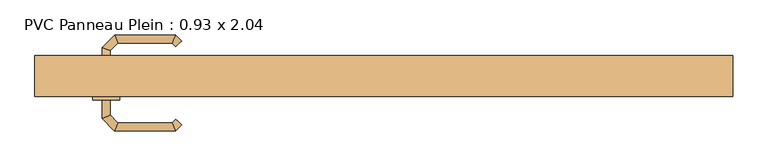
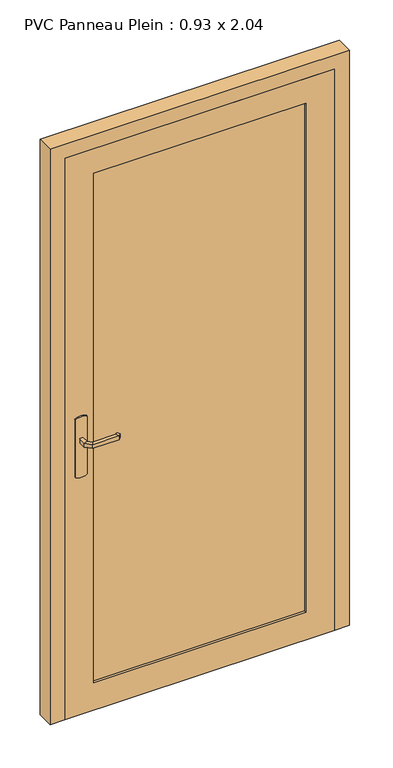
"""IFC4 building model written with IfcOpenShell, lengths in millimetres: door geometry, PVC Panneau Plein : 0.93 x 2.04."""

import ifcopenshell
import ifcopenshell.guid

model = None  # the IFC model being written
_history = None  # IfcOwnerHistory: only IFC2X3 demands one
_inside = {}  # id of a spatial element -> (the spatial element, [elements in it])
_under = {}  # id of a project, library or spatial element -> (it, [spatial elements below it])
_declared = {}  # id of a project -> (the project, [libraries it declares])
_typed = {}  # id of a type object -> (the type object, [elements of that type])
_made_of = {}  # id of a material, layer set ... -> (it, [elements and type objects made of it])


def new_model(schema):
    """Start an empty IFC model of exactly this schema.

    Asked for "IFC4X3", IfcOpenShell would pick the latest addendum, in which some entities
    have other attributes; the version numbers below select the first issue.
    IFC2X3 requires an IfcOwnerHistory on every rooted entity: one is made here for all.
    """
    global model, _history
    if schema == "IFC4X3":
        model = ifcopenshell.file(schema_version=(4, 3, 0, 0))
    else:
        model = ifcopenshell.file(schema=schema)
    _inside.clear()
    _under.clear()
    _declared.clear()
    _typed.clear()
    _made_of.clear()
    _history = None
    if model.schema == "IFC2X3":
        org = make("IfcOrganization", Name="unknown")
        user = make(
            "IfcPersonAndOrganization",
            ThePerson=make("IfcPerson", FamilyName="unknown"),
            TheOrganization=org,
        )
        app = make(
            "IfcApplication",
            ApplicationDeveloper=org,
            Version="unknown",
            ApplicationFullName="unknown",
            ApplicationIdentifier="unknown",
        )
        _history = make(
            "IfcOwnerHistory",
            OwningUser=user,
            OwningApplication=app,
            ChangeAction="ADDED",
            CreationDate=0,
        )
    return model


def make(cls, **values):
    """One entity of the class cls with the attributes given. An attribute that is None is left unset."""
    return model.create_entity(
        cls, **{name: value for name, value in values.items() if value is not None}
    )


def rooted(cls, **values):
    """An entity with a GlobalId (a new one), such as an element, a storey or a relation."""
    return make(cls, GlobalId=ifcopenshell.guid.new(), OwnerHistory=_history, **values)


def si_unit(unit_type, name, prefix=None):
    """IfcSIUnit, for example si_unit("LENGTHUNIT", "METRE", prefix="MILLI")."""
    return make("IfcSIUnit", UnitType=unit_type, Prefix=prefix, Name=name)


def assignment(units):
    """IfcUnitAssignment: the units of a project."""
    return None if units is None else make("IfcUnitAssignment", Units=units)


def point(xyz):
    """IfcCartesianPoint."""
    return None if xyz is None else make("IfcCartesianPoint", Coordinates=xyz)


def direction(xyz):
    """IfcDirection."""
    return None if xyz is None else make("IfcDirection", DirectionRatios=xyz)


def frame(location, z_axis=None, x_axis=None):
    """IfcAxis2Placement3D, a coordinate frame: its origin and axes. An axis left out is left unset."""
    return make(
        "IfcAxis2Placement3D",
        Location=point(location),
        Axis=direction(z_axis),
        RefDirection=direction(x_axis),
    )


def frame_2d(location, x_axis=None):
    """IfcAxis2Placement2D, a coordinate frame in the plane: its origin and x axis."""
    return make(
        "IfcAxis2Placement2D", Location=point(location), RefDirection=direction(x_axis)
    )


def origin():
    """The frame at (0, 0, 0) with its axes left unset."""
    return frame((0.0, 0.0, 0.0))


def place(relative_to, where):
    """IfcLocalPlacement: puts the frame where relative to a parent placement (None: the world)."""
    return make(
        "IfcLocalPlacement", PlacementRelTo=relative_to, RelativePlacement=where
    )


def context(
    kind, dimensions, precision=None, world=None, true_north=None, identifier=None
):
    """IfcGeometricRepresentationContext, for example the 3D "Model" context."""
    return make(
        "IfcGeometricRepresentationContext",
        ContextIdentifier=identifier,
        ContextType=kind,
        CoordinateSpaceDimension=dimensions,
        Precision=precision,
        WorldCoordinateSystem=world,
        TrueNorth=true_north,
    )


def project(units=None, contexts=None):
    """IfcProject with its units and contexts."""
    return rooted(
        "IfcProject",
        Name="project",
        RepresentationContexts=contexts,
        UnitsInContext=assignment(units),
    )


def spatial(cls, under=None, at=None, **own):
    """A site, building, storey or space (cls), placed at a placement, below another one or the project."""
    s = rooted(cls, ObjectPlacement=at, **own)
    if under is not None:
        _under.setdefault(under.id(), (under, []))[1].append(s)
    return s


def polyline(points):
    """IfcPolyline through the points."""
    return make("IfcPolyline", Points=[point(p) for p in points])


def circle_curve(where, radius):
    """IfcCircle in the frame where."""
    return make("IfcCircle", Position=where, Radius=radius)


def ellipse_curve(where, semi_axis1, semi_axis2):
    """IfcEllipse in the frame where."""
    return make(
        "IfcEllipse", Position=where, SemiAxis1=semi_axis1, SemiAxis2=semi_axis2
    )


def trimmed(basis, trim1, trim2, sense, master):
    """IfcTrimmedCurve: the piece of a basis curve between two trims."""
    return make(
        "IfcTrimmedCurve",
        BasisCurve=basis,
        Trim1=trim1,
        Trim2=trim2,
        SenseAgreement=sense,
        MasterRepresentation=master,
    )


def segment(curve, same_sense, transition):
    """IfcCompositeCurveSegment."""
    return make(
        "IfcCompositeCurveSegment",
        Transition=transition,
        SameSense=same_sense,
        ParentCurve=curve,
    )


def composite_curve(segments, self_intersect=None):
    """IfcCompositeCurve: segments joined end to end."""
    return make("IfcCompositeCurve", Segments=segments, SelfIntersect=self_intersect)


def outline(outer, holes=None, kind="AREA"):
    """IfcArbitraryClosedProfileDef: a profile drawn as a closed curve; with holes, ...WithVoids."""
    if holes is None:
        return make("IfcArbitraryClosedProfileDef", ProfileType=kind, OuterCurve=outer)
    return make(
        "IfcArbitraryProfileDefWithVoids",
        ProfileType=kind,
        OuterCurve=outer,
        InnerCurves=holes,
    )


def extrude(swept, where, along, depth):
    """IfcExtrudedAreaSolid: the profile swept, set in the frame where, extruded along a direction by depth."""
    return make(
        "IfcExtrudedAreaSolid",
        SweptArea=swept,
        Position=where,
        ExtrudedDirection=direction(along),
        Depth=depth,
    )


def faces_of(points, faces, orient=None, outer=None):
    """IfcFace entities. A face is a list of loops; a loop is a list of indices into points, from 0.

    orient and outer hold one flag for each loop. By default every Orientation is true, the
    first loop of a face is its IfcFaceOuterBound and the others are IfcFaceBound.
    """
    made = []
    for i, loops in enumerate(faces):
        bounds = []
        for j, loop in enumerate(loops):
            is_outer = j == 0 if outer is None else outer[i][j]
            bounds.append(
                make(
                    "IfcFaceOuterBound" if is_outer else "IfcFaceBound",
                    Bound=make("IfcPolyLoop", Polygon=[points[k] for k in loop]),
                    Orientation=True if orient is None else orient[i][j],
                )
            )
        made.append(make("IfcFace", Bounds=bounds))
    return made


def faceted_brep(points, faces, orient=None, outer=None, voids=None):
    """IfcFacetedBrep: a solid bounded by flat faces; with voids (closed shells), ...WithVoids."""
    shared = [point(p) for p in points]
    hull = make("IfcClosedShell", CfsFaces=faces_of(shared, faces, orient, outer))
    if voids is None:
        return make("IfcFacetedBrep", Outer=hull)
    return make(
        "IfcFacetedBrepWithVoids",
        Outer=hull,
        Voids=[
            make(cls, CfsFaces=faces_of(shared, fs, o, b)) for cls, fs, o, b in voids
        ],
    )


def shape(context_of_items, identifier, shape_type, items):
    """IfcShapeRepresentation: the items that make up one representation, for example the "Body"."""
    return make(
        "IfcShapeRepresentation",
        ContextOfItems=context_of_items,
        RepresentationIdentifier=identifier,
        RepresentationType=shape_type,
        Items=items,
    )


def source(mapping_origin, context_of_items, identifier, shape_type, items):
    """IfcRepresentationMap: a shape defined once, which mapped items show again and again."""
    return make(
        "IfcRepresentationMap",
        MappingOrigin=mapping_origin,
        MappedRepresentation=shape(context_of_items, identifier, shape_type, items),
    )


def transform(
    local_origin,
    x_axis=None,
    y_axis=None,
    z_axis=None,
    scale=None,
    scale2=None,
    scale3=None,
    uniform=True,
):
    """IfcCartesianTransformationOperator3D, or its non-uniform kind. x_axis, y_axis, z_axis: its Axis1, 2, 3."""
    if uniform:
        return make(
            "IfcCartesianTransformationOperator3D",
            Axis1=direction(x_axis),
            Axis2=direction(y_axis),
            LocalOrigin=point(local_origin),
            Scale=scale,
            Axis3=direction(z_axis),
        )
    return make(
        "IfcCartesianTransformationOperator3DnonUniform",
        Axis1=direction(x_axis),
        Axis2=direction(y_axis),
        LocalOrigin=point(local_origin),
        Scale=scale,
        Axis3=direction(z_axis),
        Scale2=scale2,
        Scale3=scale3,
    )


def mapped(mapping_source, mapping_target):
    """IfcMappedItem: shows the shape of a source again, moved by a transform."""
    return make(
        "IfcMappedItem", MappingSource=mapping_source, MappingTarget=mapping_target
    )


def made_of(thing, what):
    """Note that an element or type object is made of a material, layer set ...; save() writes the relation."""
    if what is not None:
        _made_of.setdefault(what.id(), (what, []))[1].append(thing)
    return thing


def element(
    cls,
    number,
    at=None,
    inside=None,
    cuts=None,
    type_object=None,
    material=None,
    context=None,
    identifier="Body",
    shape_type=None,
    held_by="IfcProductDefinitionShape",
    body=None,
    shapes=None,
    **own,
):
    """One element of the class cls, such as IfcWall. Its Tag is "e" and its number.

    at: its placement. inside: the storey or other place that contains it. cuts: it is an
    opening in that element (IfcRelVoidsElement). A single representation is given by context,
    identifier, shape_type and body (its items); several are given by shapes. held_by: the class
    of the entity that holds the representations. save() writes the other relations.
    """
    e = rooted(cls, Tag="e%d" % number, ObjectPlacement=at, **own)
    if body is not None:
        shapes = [shape(context, identifier, shape_type, body)]
    if shapes is not None:
        e.Representation = make(held_by, Representations=shapes)
    if inside is not None:
        _inside.setdefault(inside.id(), (inside, []))[1].append(e)
    if cuts is not None:
        rooted(
            "IfcRelVoidsElement", RelatingBuildingElement=cuts, RelatedOpeningElement=e
        )
    if type_object is not None:
        _typed.setdefault(type_object.id(), (type_object, []))[1].append(e)
    return made_of(e, material)


def aggregate(whole, parts):
    """IfcRelAggregates: a whole, such as a stair, and the parts it consists of."""
    return rooted("IfcRelAggregates", RelatingObject=whole, RelatedObjects=parts)


def save(model, path):
    """Write the relations noted so far, then the file.

    IfcRelAggregates (storeys below a building ...), IfcRelContainedInSpatialStructure (elements
    in a storey), IfcRelDefinesByType, IfcRelAssociatesMaterial and IfcRelDeclares: one each for
    every whole, place, type object, material and project.
    """
    for whole, parts in _under.values():
        aggregate(whole, parts)
    for where, things in _inside.values():
        rooted(
            "IfcRelContainedInSpatialStructure",
            RelatedElements=things,
            RelatingStructure=where,
        )
    for kind, things in _typed.values():
        rooted("IfcRelDefinesByType", RelatedObjects=things, RelatingType=kind)
    for what, things in _made_of.values():
        rooted("IfcRelAssociatesMaterial", RelatedObjects=things, RelatingMaterial=what)
    for by, libraries in _declared.values():
        rooted("IfcRelDeclares", RelatingContext=by, RelatedDefinitions=libraries)
    model.write(path)


def plane_surface(at):
    """IfcPlane: the flat surface through the origin of the frame at, square to its z axis."""
    return make("IfcPlane", Position=at)


def cylinder_surface(at, radius):
    """IfcCylindricalSurface: all points at the distance radius from the z axis of the frame at."""
    return make("IfcCylindricalSurface", Position=at, Radius=radius)


def advanced_brep(points, edges, surfaces, faces):
    """IfcAdvancedBrep: a solid bounded by faces that lie on surfaces and meet in shared edges.

    An edge is (start, end): straight between two places in points (the first is 0);
    or (start, end, curve); or (start, end, curve, False) where it runs against its curve.
    A face is (place in surfaces, loops), or (place, loops, False) where it looks against
    its surface's normal. A loop lists edges by number (the first is 1), with a minus sign
    where the edge is run from its end to its start. The first loop is the outer one.
    """
    corners = [point(p) for p in points]
    vertices = [make("IfcVertexPoint", VertexGeometry=c) for c in corners]
    made = []
    for start, end, *more in edges:
        made.append(
            make(
                "IfcEdgeCurve",
                EdgeStart=vertices[start],
                EdgeEnd=vertices[end],
                EdgeGeometry=more[0] if more else make("IfcPolyline", Points=[corners[start], corners[end]]),
                SameSense=more[1] if len(more) > 1 else True,
            )
        )
    hull = []
    for where, loops, *sense in faces:
        bounds = []
        for j, loop in enumerate(loops):
            ring = [make("IfcOrientedEdge", EdgeElement=made[abs(k) - 1], Orientation=k > 0) for k in loop]
            bounds.append(
                make(
                    "IfcFaceOuterBound" if j == 0 else "IfcFaceBound",
                    Bound=make("IfcEdgeLoop", EdgeList=ring),
                    Orientation=True,
                )
            )
        hull.append(make("IfcAdvancedFace", Bounds=bounds, FaceSurface=surfaces[where], SameSense=sense[0] if sense else True))
    return make("IfcAdvancedBrep", Outer=make("IfcClosedShell", CfsFaces=hull))


def pvc_panneau_plein_0_93_x_2_04_bf67a00e(model_context):
    return source(origin(), model_context, "Body", "SolidModel", [
        advanced_brep(
        [(-404.0, -118.7935702, 993.0), (-404.0, -118.7935702, 1007.0), (-416.0, -118.7935702, 1007.0), (-416.0, -118.7935702, 993.0), (-404.0, -96.3083657, 993.0), (-404.0, -96.3083657, 1007.0), (-416.0, -91.337803, 1007.0), (-416.0, -91.337803, 993.0), (-392.5147186, -84.8230843, 993.0), (-392.5147186, -84.8230843, 1007.0), (-397.4852814, -72.8230843, 1007.0), (-397.4852814, -72.8230843, 993.0), (-312.4394977, -84.8230843, 993.0), (-312.4394977, -84.8230843, 1007.0), (-307.468935, -72.8230843, 1007.0), (-307.468935, -72.8230843, 993.0), (-307.1257892, -90.1367928, 993.0), (-298.6405078, -81.6515115, 993.0), (-298.6405078, -81.6515115, 1007.0), (-307.1257892, -90.1367928, 1007.0)],
        [
            (0, 1),
            (1, 2, circle_curve(frame((-410.0, -118.7935702, 986.9542278), z_axis=(0.0, -1.0, 0.0), x_axis=(-1.0, 0.0, 0.0)), 20.9244589)),
            (2, 3),
            (3, 0, circle_curve(frame((-410.0, -118.7935702, 1013.0457722), z_axis=(0.0, -1.0, 0.0), x_axis=(-1.0, 0.0, 0.0)), 20.9244589)),
            (0, 4),
            (4, 5),
            (5, 1),
            (5, 6, ellipse_curve(frame((-410.0, -93.8230843, 986.9542278), z_axis=(-0.38268343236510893, -0.9238795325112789, 0.0), x_axis=(0.9238795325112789, -0.3826834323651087, 0.0)), 22.6484711, 20.9244589)),
            (6, 2),
            (6, 7),
            (7, 3),
            (7, 4, ellipse_curve(frame((-410.0, -93.8230843, 1013.0457722), z_axis=(-0.38268343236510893, -0.9238795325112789, 0.0), x_axis=(0.9238795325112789, -0.3826834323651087, 0.0)), 22.6484711, 20.9244589)),
            (4, 8),
            (8, 9),
            (9, 5),
            (9, 10, ellipse_curve(frame((-395.0, -78.8230843, 986.9542278), z_axis=(-0.9238795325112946, -0.38268343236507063, 0.0), x_axis=(0.3826834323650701, -0.9238795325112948, 0.0)), 22.6484711, 20.9244589)),
            (10, 6),
            (10, 11),
            (11, 7),
            (11, 8, ellipse_curve(frame((-395.0, -78.8230843, 1013.0457722), z_axis=(-0.9238795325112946, -0.38268343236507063, 0.0), x_axis=(0.3826834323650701, -0.9238795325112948, 0.0)), 22.6484711, 20.9244589)),
            (8, 12),
            (12, 13),
            (13, 9),
            (13, 14, ellipse_curve(frame((-309.9542163, -78.8230843, 986.9542278), z_axis=(-0.9238795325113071, 0.38268343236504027, 0.0), x_axis=(-0.38268343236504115, -0.9238795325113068, 0.0)), 22.6484711, 20.9244589)),
            (14, 10),
            (14, 15),
            (15, 11),
            (15, 12, ellipse_curve(frame((-309.9542163, -78.8230843, 1013.0457722), z_axis=(-0.9238795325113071, 0.38268343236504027, 0.0), x_axis=(-0.38268343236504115, -0.9238795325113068, 0.0)), 22.6484711, 20.9244589)),
            (16, 17, circle_curve(frame((-302.8831485, -85.8941521, 1013.0457722), z_axis=(0.7071067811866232, -0.7071067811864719, 0.0), x_axis=(0.7071067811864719, 0.7071067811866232, 0.0)), 20.9244589)),
            (17, 18),
            (18, 19, circle_curve(frame((-302.8831485, -85.8941521, 986.9542278), z_axis=(0.7071067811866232, -0.7071067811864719, 0.0), x_axis=(0.7071067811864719, 0.7071067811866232, 0.0)), 20.9244589)),
            (19, 16),
            (12, 16),
            (19, 13),
            (18, 14),
            (17, 15),
        ],
        [
            plane_surface(frame((-419.2195445, -118.7935702, 1000.0), z_axis=(0.0, -1.0, 0.0), x_axis=(0.0, 0.0, 1.0))),
            plane_surface(frame((-404.0, -118.7935702, 993.0), z_axis=(1.0, 0.0, 0.0), x_axis=(0.0, 1.0, 0.0))),
            cylinder_surface(frame((-410.0, -118.7935702, 986.9542278), z_axis=(0.0, -1.0, 0.0), x_axis=(-1.0, 0.0, 0.0)), 20.9244589),
            plane_surface(frame((-416.0, -118.7935702, 1007.0), z_axis=(-1.0, 0.0, 0.0), x_axis=(0.0, 1.0, 0.0))),
            cylinder_surface(frame((-410.0, -118.7935702, 1013.0457722), z_axis=(0.0, -1.0, 0.0), x_axis=(-1.0, 0.0, 0.0)), 20.9244589),
            plane_surface(frame((-404.0, -96.3083657, 993.0), z_axis=(0.707106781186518, -0.707106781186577, 0.0), x_axis=(0.707106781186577, 0.707106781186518, 0.0))),
            cylinder_surface(frame((-410.0, -93.8230843, 986.9542278), z_axis=(-0.7071067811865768, -0.7071067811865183, 0.0), x_axis=(-0.7071067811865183, 0.7071067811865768, 0.0)), 20.9244589),
            plane_surface(frame((-416.0, -91.337803, 1007.0), z_axis=(-0.7071067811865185, 0.7071067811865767, 0.0), x_axis=(0.7071067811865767, 0.7071067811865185, 0.0))),
            cylinder_surface(frame((-410.0, -93.8230843, 1013.0457722), z_axis=(-0.7071067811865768, -0.7071067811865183, 0.0), x_axis=(-0.7071067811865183, 0.7071067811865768, 0.0)), 20.9244589),
            plane_surface(frame((-392.5147186, -84.8230843, 993.0), z_axis=(0.0, -1.0, 0.0), x_axis=(1.0, 0.0, 0.0))),
            cylinder_surface(frame((-395.0, -78.8230843, 986.9542278), z_axis=(-1.0, 0.0, 0.0), x_axis=(0.0, 1.0, 0.0)), 20.9244589),
            plane_surface(frame((-397.4852814, -72.8230843, 1007.0), z_axis=(0.0, 1.0, 0.0), x_axis=(1.0, 0.0, 0.0))),
            cylinder_surface(frame((-395.0, -78.8230843, 1013.0457722), z_axis=(-1.0, 0.0, 0.0), x_axis=(0.0, 1.0, 0.0)), 20.9244589),
            plane_surface(frame((-302.8831485, -85.8941521, 990.7804555), z_axis=(0.7071067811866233, -0.7071067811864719, 0.0), x_axis=(0.7071067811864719, 0.7071067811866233, 0.0))),
            plane_surface(frame((-312.4394977, -84.8230843, 993.0), z_axis=(-0.707106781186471, -0.7071067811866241, 0.0), x_axis=(0.7071067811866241, -0.707106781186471, 0.0))),
            cylinder_surface(frame((-309.9542163, -78.8230843, 986.9542278), z_axis=(-0.7071067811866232, 0.7071067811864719, 0.0), x_axis=(0.7071067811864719, 0.7071067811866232, 0.0)), 20.9244589),
            plane_surface(frame((-307.468935, -72.8230843, 1007.0), z_axis=(0.7071067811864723, 0.7071067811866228, 0.0), x_axis=(0.7071067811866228, -0.7071067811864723, 0.0))),
            cylinder_surface(frame((-309.9542163, -78.8230843, 1013.0457722), z_axis=(-0.7071067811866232, 0.7071067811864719, 0.0), x_axis=(0.7071067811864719, 0.7071067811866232, 0.0)), 20.9244589),
        ],
        [
            (0, [[1, 2, 3, 4]]),
            (1, [[-1, 5, 6, 7]]),
            (2, [[-2, -7, 8, 9]]),
            (3, [[-3, -9, 10, 11]]),
            (4, [[-4, -11, 12, -5]]),
            (5, [[-6, 13, 14, 15]]),
            (6, [[-8, -15, 16, 17]]),
            (7, [[-10, -17, 18, 19]]),
            (8, [[-12, -19, 20, -13]]),
            (9, [[-14, 21, 22, 23]]),
            (10, [[-16, -23, 24, 25]]),
            (11, [[-18, -25, 26, 27]]),
            (12, [[-20, -27, 28, -21]]),
            (13, [[29, 30, 31, 32]]),
            (14, [[-22, 33, -32, 34]]),
            (15, [[-24, -34, -31, 35]]),
            (16, [[-26, -35, -30, 36]]),
            (17, [[-28, -36, -29, -33]]),
        ],
    ),
        advanced_brep(
        [(-416.0, -168.7935702, 1007.0), (-404.0, -168.7935702, 1007.0), (-404.0, -168.7935702, 993.0), (-416.0, -168.7935702, 993.0), (-416.0, -196.4445209, 1007.0), (-404.0, -191.4739582, 1007.0), (-404.0, -191.4739582, 993.0), (-416.0, -196.4445209, 993.0), (-397.62279, -214.8217309, 1007.0), (-392.6522273, -202.8217309, 1007.0), (-392.6522273, -202.8217309, 993.0), (-397.62279, -214.8217309, 993.0), (-307.496078, -214.8217309, 1007.0), (-312.4666408, -202.8217309, 1007.0), (-312.4666408, -202.8217309, 993.0), (-307.496078, -214.8217309, 993.0), (-298.6676509, -205.9933038, 1007.0), (-298.6676509, -205.9933038, 993.0), (-307.1529323, -197.5080224, 993.0), (-307.1529323, -197.5080224, 1007.0)],
        [
            (0, 1, circle_curve(frame((-410.0, -168.7935702, 986.9542278), z_axis=(0.0, 1.0, 0.0), x_axis=(1.0, 0.0, 0.0)), 20.9244589)),
            (1, 2),
            (2, 3, circle_curve(frame((-410.0, -168.7935702, 1013.0457722), z_axis=(0.0, 1.0, 0.0), x_axis=(1.0, 0.0, 0.0)), 20.9244589)),
            (3, 0),
            (0, 4),
            (4, 5, ellipse_curve(frame((-410.0, -193.9592395, 986.9542278), z_axis=(-0.3826834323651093, 0.9238795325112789, 0.0), x_axis=(0.9238795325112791, 0.38268343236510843, 0.0)), 22.6484711, 20.9244589)),
            (5, 1),
            (5, 6),
            (6, 2),
            (6, 7, ellipse_curve(frame((-410.0, -193.9592395, 1013.0457722), z_axis=(-0.3826834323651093, 0.9238795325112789, 0.0), x_axis=(0.9238795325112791, 0.38268343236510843, 0.0)), 22.6484711, 20.9244589)),
            (7, 3),
            (7, 4),
            (4, 8),
            (8, 9, ellipse_curve(frame((-395.1375086, -208.8217309, 986.9542278), z_axis=(-0.9238795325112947, 0.38268343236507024, 0.0), x_axis=(0.3826834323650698, 0.9238795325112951, 0.0)), 22.6484711, 20.9244589)),
            (9, 5),
            (9, 10),
            (10, 6),
            (10, 11, ellipse_curve(frame((-395.1375086, -208.8217309, 1013.0457722), z_axis=(-0.9238795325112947, 0.38268343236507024, 0.0), x_axis=(0.3826834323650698, 0.9238795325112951, 0.0)), 22.6484711, 20.9244589)),
            (11, 7),
            (11, 8),
            (8, 12),
            (12, 13, ellipse_curve(frame((-309.9813594, -208.8217309, 986.9542278), z_axis=(-0.9238795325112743, -0.3826834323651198, 0.0), x_axis=(-0.38268343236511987, 0.9238795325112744, 0.0)), 22.6484711, 20.9244589)),
            (13, 9),
            (13, 14),
            (14, 10),
            (14, 15, ellipse_curve(frame((-309.9813594, -208.8217309, 1013.0457722), z_axis=(-0.9238795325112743, -0.3826834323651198, 0.0), x_axis=(-0.38268343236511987, 0.9238795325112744, 0.0)), 22.6484711, 20.9244589)),
            (15, 11),
            (15, 12),
            (16, 17),
            (17, 18, circle_curve(frame((-302.9102916, -201.7506631, 1013.0457722), z_axis=(0.7071067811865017, 0.7071067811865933, 0.0), x_axis=(-0.7071067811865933, 0.7071067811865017, 0.0)), 20.9244589)),
            (18, 19),
            (19, 16, circle_curve(frame((-302.9102916, -201.7506631, 986.9542278), z_axis=(0.7071067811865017, 0.7071067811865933, 0.0), x_axis=(-0.7071067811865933, 0.7071067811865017, 0.0)), 20.9244589)),
            (12, 16),
            (19, 13),
            (18, 14),
            (17, 15),
        ],
        [
            plane_surface(frame((-419.2195445, -168.7935702, 1000.0), z_axis=(0.0, 1.0, 0.0), x_axis=(0.0, 0.0, -1.0))),
            cylinder_surface(frame((-410.0, -168.7935702, 986.9542278), z_axis=(0.0, 1.0, 0.0), x_axis=(1.0, 0.0, 0.0)), 20.9244589),
            plane_surface(frame((-404.0, -168.7935702, 1007.0), z_axis=(1.0, 0.0, 0.0), x_axis=(0.0, -1.0, 0.0))),
            cylinder_surface(frame((-410.0, -168.7935702, 1013.0457722), z_axis=(0.0, 1.0, 0.0), x_axis=(1.0, 0.0, 0.0)), 20.9244589),
            plane_surface(frame((-416.0, -168.7935702, 993.0), z_axis=(-1.0, 0.0, 0.0), x_axis=(0.0, -1.0, 0.0))),
            cylinder_surface(frame((-410.0, -193.9592395, 986.9542278), z_axis=(-0.7071067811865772, 0.7071067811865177, 0.0), x_axis=(0.7071067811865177, 0.7071067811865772, 0.0)), 20.9244589),
            plane_surface(frame((-404.0, -191.4739582, 1007.0), z_axis=(0.7071067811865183, 0.7071067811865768, 0.0), x_axis=(0.7071067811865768, -0.7071067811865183, 0.0))),
            cylinder_surface(frame((-410.0, -193.9592395, 1013.0457722), z_axis=(-0.7071067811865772, 0.7071067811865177, 0.0), x_axis=(0.7071067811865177, 0.7071067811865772, 0.0)), 20.9244589),
            plane_surface(frame((-416.0, -196.4445209, 993.0), z_axis=(-0.707106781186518, -0.707106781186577, 0.0), x_axis=(0.707106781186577, -0.707106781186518, 0.0))),
            cylinder_surface(frame((-395.1375086, -208.8217309, 986.9542278), z_axis=(-1.0, 0.0, 0.0), x_axis=(0.0, 1.0, 0.0)), 20.9244589),
            plane_surface(frame((-392.6522273, -202.8217309, 1007.0), z_axis=(0.0, 1.0, 0.0), x_axis=(1.0, 0.0, 0.0))),
            cylinder_surface(frame((-395.1375086, -208.8217309, 1013.0457722), z_axis=(-1.0, 0.0, 0.0), x_axis=(0.0, 1.0, 0.0)), 20.9244589),
            plane_surface(frame((-397.62279, -214.8217309, 993.0), z_axis=(0.0, -1.0, 0.0), x_axis=(1.0, 0.0, 0.0))),
            plane_surface(frame((-302.9102916, -201.7506631, 1009.2195445), z_axis=(0.7071067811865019, 0.7071067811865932, 0.0), x_axis=(0.7071067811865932, -0.7071067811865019, 0.0))),
            cylinder_surface(frame((-309.9813594, -208.8217309, 986.9542278), z_axis=(-0.7071067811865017, -0.7071067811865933, 0.0), x_axis=(-0.7071067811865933, 0.7071067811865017, 0.0)), 20.9244589),
            plane_surface(frame((-312.4666408, -202.8217309, 1007.0), z_axis=(-0.7071067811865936, 0.7071067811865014, 0.0), x_axis=(0.7071067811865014, 0.7071067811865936, 0.0))),
            cylinder_surface(frame((-309.9813594, -208.8217309, 1013.0457722), z_axis=(-0.7071067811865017, -0.7071067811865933, 0.0), x_axis=(-0.7071067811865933, 0.7071067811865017, 0.0)), 20.9244589),
            plane_surface(frame((-307.496078, -214.8217309, 993.0), z_axis=(0.707106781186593, -0.7071067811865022, 0.0), x_axis=(0.7071067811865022, 0.707106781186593, 0.0))),
        ],
        [
            (0, [[1, 2, 3, 4]]),
            (1, [[-1, 5, 6, 7]]),
            (2, [[-2, -7, 8, 9]]),
            (3, [[-3, -9, 10, 11]]),
            (4, [[-4, -11, 12, -5]]),
            (5, [[-6, 13, 14, 15]]),
            (6, [[-8, -15, 16, 17]]),
            (7, [[-10, -17, 18, 19]]),
            (8, [[-12, -19, 20, -13]]),
            (9, [[-14, 21, 22, 23]]),
            (10, [[-16, -23, 24, 25]]),
            (11, [[-18, -25, 26, 27]]),
            (12, [[-20, -27, 28, -21]]),
            (13, [[29, 30, 31, 32]]),
            (14, [[-22, 33, -32, 34]]),
            (15, [[-24, -34, -31, 35]]),
            (16, [[-26, -35, -30, 36]]),
            (17, [[-28, -36, -29, -33]]),
        ],
    ),
        extrude(outline(composite_curve([segment(trimmed(circle_curve(frame_2d((1045.3589838, -410.0)), 40.0), [point((1080.0, -390.0))], [point((1080.0, -430.0))], False, "CARTESIAN"), True, "CONTINUOUS"), segment(polyline([(1080.0, -430.0), (870.0, -430.0)]), True, "CONTINUOUS"), segment(trimmed(circle_curve(frame_2d((904.6410162, -410.0)), 40.0), [point((870.0, -430.0))], [point((870.0, -390.0))], False, "CARTESIAN"), True, "CONTINUOUS"), segment(polyline([(870.0, -390.0), (1080.0, -390.0)]), True, "CONTINUOUS")], self_intersect=False)), frame((0.0, -123.7935702, 0.0), z_axis=(0.0, 1.0, 0.0), x_axis=(0.0, 0.0, 1.0)), (0.0, 0.0, 1.0), 5.0),
        extrude(outline(composite_curve([segment(trimmed(circle_curve(frame_2d((904.6410162, -410.0)), 40.0), [point((870.0, -430.0))], [point((870.0, -390.0))], False, "CARTESIAN"), True, "CONTINUOUS"), segment(polyline([(870.0, -390.0), (1080.0, -390.0)]), True, "CONTINUOUS"), segment(trimmed(circle_curve(frame_2d((1045.3589838, -410.0)), 40.0), [point((1080.0, -390.0))], [point((1080.0, -430.0))], False, "CARTESIAN"), True, "CONTINUOUS"), segment(polyline([(1080.0, -430.0), (870.0, -430.0)]), True, "CONTINUOUS")], self_intersect=False)), frame((0.0, -168.7935702, 0.0), z_axis=(0.0, 1.0, 0.0), x_axis=(0.0, 0.0, 1.0)), (0.0, 0.0, 1.0), 5.0),
        faceted_brep([(-515.0, -163.7935702, 0.0), (-515.0, -103.7935702, 0.0), (-450.0, -103.7935702, 0.0), (-450.0, -123.7935702, 0.0), (-465.0, -123.7935702, 0.0), (-465.0, -163.7935702, 0.0), (-515.0, -163.7935702, 2090.0), (-515.0, -103.7935702, 2090.0), (515.0, -103.7935702, 2090.0), (515.0, -103.7935702, 0.0), (450.0, -103.7935702, 0.0), (450.0, -103.7935702, 2025.0), (-450.0, -103.7935702, 2025.0), (-450.0, -123.7935702, 2025.0), (450.0, -123.7935702, 2025.0), (450.0, -123.7935702, 0.0), (465.0, -123.7935702, 0.0), (465.0, -123.7935702, 2040.0), (-465.0, -123.7935702, 2040.0), (-465.0, -163.7935702, 2040.0), (465.0, -163.7935702, 2040.0), (465.0, -163.7935702, 0.0), (515.0, -163.7935702, 0.0), (515.0, -163.7935702, 2090.0)], [[[0, 1, 2, 3, 4, 5]], [[1, 0, 6, 7]], [[2, 1, 7, 8, 9, 10, 11, 12]], [[3, 2, 12, 13]], [[4, 3, 13, 14, 15, 16, 17, 18]], [[5, 4, 18, 19]], [[0, 5, 19, 20, 21, 22, 23, 6]], [[9, 8, 23, 22]], [[10, 9, 22, 21, 16, 15]], [[11, 10, 15, 14]], [[17, 16, 21, 20]], [[7, 6, 23, 8]], [[12, 11, 14, 13]], [[18, 17, 20, 19]]]),
        faceted_brep([(-465.0, -163.7935702, 2040.0), (-465.0, -163.7935702, 0.0), (465.0, -163.7935702, 0.0), (465.0, -163.7935702, 2040.0), (365.0, -163.7935702, 1950.0), (365.0, -163.7935702, 100.0), (-365.0, -163.7935702, 100.0), (-365.0, -163.7935702, 1950.0), (-465.0, -123.7935702, 2040.0), (465.0, -123.7935702, 2040.0), (465.0, -123.7935702, 0.0), (-465.0, -123.7935702, 0.0), (-365.0, -123.7935702, 1950.0), (-365.0, -123.7935702, 100.0), (365.0, -123.7935702, 100.0), (365.0, -123.7935702, 1950.0), (365.0, -155.7935702, 1950.0), (-365.0, -155.7935702, 1950.0), (-365.0, -155.7935702, 100.0), (365.0, -155.7935702, 100.0), (-365.0, -131.7935702, 1950.0), (365.0, -131.7935702, 1950.0), (365.0, -131.7935702, 100.0), (-365.0, -131.7935702, 100.0)], [[[0, 1, 2, 3], [4, 5, 6, 7]], [[8, 9, 10, 11], [12, 13, 14, 15]], [[1, 0, 8, 11]], [[2, 1, 11, 10]], [[3, 2, 10, 9]], [[0, 3, 9, 8]], [[16, 17, 18, 19]], [[16, 19, 5, 4]], [[19, 18, 6, 5]], [[18, 17, 7, 6]], [[17, 16, 4, 7]], [[20, 21, 22, 23]], [[20, 23, 13, 12]], [[23, 22, 14, 13]], [[22, 21, 15, 14]], [[21, 20, 12, 15]]]),
    ])


if __name__ == "__main__":
    model = new_model("IFC4")
    model_context = context("Model", 3, world=origin())
    ifc_project = project(units=[si_unit("LENGTHUNIT", "METRE", prefix="MILLI")], contexts=[model_context])
    site = spatial("IfcSite", under=ifc_project)
    building = spatial("IfcBuilding", under=site)
    placement = place(None, origin())
    pvc_panneau_plein_0_93_x_2_04_shape = pvc_panneau_plein_0_93_x_2_04_bf67a00e(model_context)
    element("IfcDoor", 1, ObjectType="PVC Panneau Plein : 0.93 x 2.04", at=placement, inside=building, context=model_context, shape_type="MappedRepresentation", body=[
        mapped(pvc_panneau_plein_0_93_x_2_04_shape, transform((0.0, 0.0, 0.0), x_axis=(1.0, 0.0, 0.0), y_axis=(0.0, 1.0, 0.0), z_axis=(0.0, 0.0, 1.0))),
    ])
    save(model, "model.ifc")
